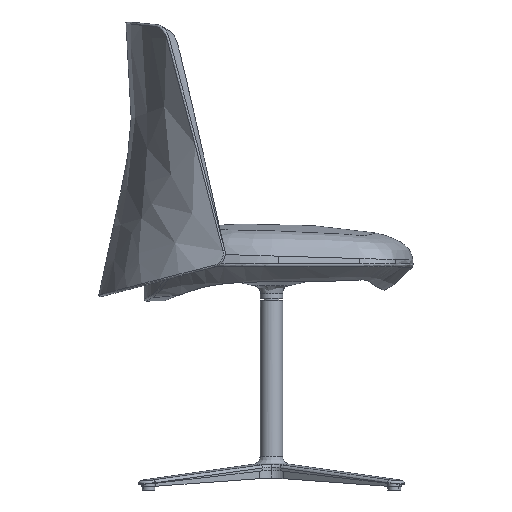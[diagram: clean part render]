
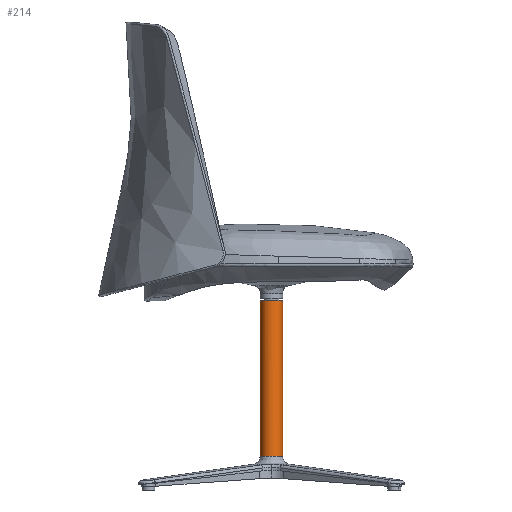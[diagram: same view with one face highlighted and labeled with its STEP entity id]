
A CAD part, left-side view. The second image highlights one B-rep face of the part: STEP entity #214.
In plain terms, the highlighted free-form (B-spline) face has degree [2, 1] with [5, 2] control points.
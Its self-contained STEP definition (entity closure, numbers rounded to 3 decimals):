
#214=ADVANCED_FACE('',(#386),#2600,.T.);
#386=FACE_OUTER_BOUND('',#558,.T.);
#558=EDGE_LOOP('',(#1371,#1372,#1373,#1374));
#1371=ORIENTED_EDGE('',*,*,#1800,.T.);
#1372=ORIENTED_EDGE('',*,*,#1784,.T.);
#1373=ORIENTED_EDGE('',*,*,#1595,.T.);
#1374=ORIENTED_EDGE('',*,*,#1799,.F.);
#1595=EDGE_CURVE('',#2376,#2490,#1919,.T.);
#1784=EDGE_CURVE('',#2489,#2376,#1999,.T.);
#1799=EDGE_CURVE('',#2499,#2490,#2228,.T.);
#1800=EDGE_CURVE('',#2499,#2489,#2229,.T.);
#1919=B_SPLINE_CURVE_WITH_KNOTS('',3,(#11186,#11187,#11188,#11189,#11190,
#11191,#11192,#11193,#11194,#11195,#11196,#11197,#11198,#11199,#11200,#11201,
#11202,#11203,#11204),.UNSPECIFIED.,.F.,.F.,(4,1,2,2,2,2,2,2,2,4),(-169.646,
-164.344,-159.043,-148.44,-137.837,
-127.234,-116.631,-106.029,-95.426,
-84.823),.UNSPECIFIED.);
#1999=B_SPLINE_CURVE_WITH_KNOTS('',1,(#12803,#12804),.UNSPECIFIED.,.F.,
 .F.,(2,2),(0.,280.),.UNSPECIFIED.);
#2228=(
BOUNDED_CURVE()
B_SPLINE_CURVE(1,(#12920,#12921),.UNSPECIFIED.,.F.,.F.)
B_SPLINE_CURVE_WITH_KNOTS((2,2),(0.,280.),.UNSPECIFIED.)
CURVE()
GEOMETRIC_REPRESENTATION_ITEM()
RATIONAL_B_SPLINE_CURVE((1.,1.))
REPRESENTATION_ITEM('')
);
#2229=(
BOUNDED_CURVE()
B_SPLINE_CURVE(2,(#12922,#12923,#12924,#12925,#12926),.UNSPECIFIED.,.F.,
 .F.)
B_SPLINE_CURVE_WITH_KNOTS((3,2,3),(-62.832,-31.416,
0.),.UNSPECIFIED.)
CURVE()
GEOMETRIC_REPRESENTATION_ITEM()
RATIONAL_B_SPLINE_CURVE((1.,0.707,1.,0.707,1.))
REPRESENTATION_ITEM('')
);
#2376=VERTEX_POINT('',#11047);
#2489=VERTEX_POINT('',#11160);
#2490=VERTEX_POINT('',#11161);
#2499=VERTEX_POINT('',#11170);
#2600=(
BOUNDED_SURFACE()
B_SPLINE_SURFACE(2,1,((#11036,#11037),(#11038,#11039),(#11040,#11041),(#11042,
#11043),(#11044,#11045)),.UNSPECIFIED.,.F.,.F.,.F.)
B_SPLINE_SURFACE_WITH_KNOTS((3,2,3),(2,2),(-62.832,-31.416,
0.),(0.,280.),.UNSPECIFIED.)
GEOMETRIC_REPRESENTATION_ITEM()
RATIONAL_B_SPLINE_SURFACE(((1.,1.),(0.707,0.707),
(1.,1.),(0.707,0.707),(1.,1.)))
REPRESENTATION_ITEM('')
SURFACE()
);
#11036=CARTESIAN_POINT('',(0.,-20.,337.));
#11037=CARTESIAN_POINT('',(0.,-20.,60.));
#11038=CARTESIAN_POINT('',(-20.,-20.,337.));
#11039=CARTESIAN_POINT('',(-20.,-20.,60.));
#11040=CARTESIAN_POINT('',(-20.,0.,337.));
#11041=CARTESIAN_POINT('',(-20.,0.,60.));
#11042=CARTESIAN_POINT('',(-20.,20.,337.));
#11043=CARTESIAN_POINT('',(-20.,20.,60.));
#11044=CARTESIAN_POINT('',(0.,20.,337.));
#11045=CARTESIAN_POINT('',(0.,20.,60.));
#11047=CARTESIAN_POINT('',(0.,20.,60.));
#11160=CARTESIAN_POINT('',(0.,20.,337.));
#11161=CARTESIAN_POINT('',(0.,-20.001,60.));
#11170=CARTESIAN_POINT('',(0.,-20.,337.));
#11186=CARTESIAN_POINT('',(0.,20.,60.));
#11187=CARTESIAN_POINT('',(-1.309,20.,60.));
#11188=CARTESIAN_POINT('',(-3.927,19.742,60.));
#11189=CARTESIAN_POINT('',(-6.444,18.978,60.));
#11190=CARTESIAN_POINT('',(-10.073,17.477,60.));
#11191=CARTESIAN_POINT('',(-12.292,15.994,60.));
#11192=CARTESIAN_POINT('',(-15.994,12.292,60.));
#11193=CARTESIAN_POINT('',(-17.477,10.073,60.));
#11194=CARTESIAN_POINT('',(-19.48,5.235,60.));
#11195=CARTESIAN_POINT('',(-20.001,2.619,60.));
#11196=CARTESIAN_POINT('',(-20.001,-2.619,60.));
#11197=CARTESIAN_POINT('',(-19.48,-5.235,60.));
#11198=CARTESIAN_POINT('',(-17.477,-10.073,60.));
#11199=CARTESIAN_POINT('',(-15.994,-12.292,60.));
#11200=CARTESIAN_POINT('',(-12.292,-15.994,60.));
#11201=CARTESIAN_POINT('',(-10.073,-17.477,60.));
#11202=CARTESIAN_POINT('',(-5.235,-19.48,60.));
#11203=CARTESIAN_POINT('',(-2.619,-20.001,60.));
#11204=CARTESIAN_POINT('',(0.,-20.001,60.));
#12803=CARTESIAN_POINT('',(0.,20.,337.));
#12804=CARTESIAN_POINT('',(0.,20.,60.));
#12920=CARTESIAN_POINT('',(0.,-20.,337.));
#12921=CARTESIAN_POINT('',(0.,-20.,60.));
#12922=CARTESIAN_POINT('',(0.,-20.,337.));
#12923=CARTESIAN_POINT('',(-20.,-20.,337.));
#12924=CARTESIAN_POINT('',(-20.,0.,337.));
#12925=CARTESIAN_POINT('',(-20.,20.,337.));
#12926=CARTESIAN_POINT('',(0.,20.,337.));
